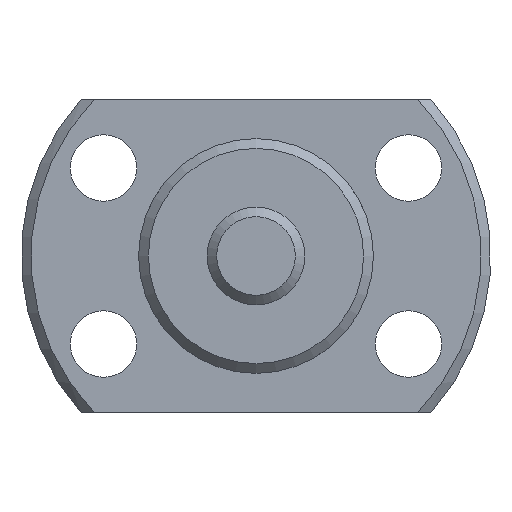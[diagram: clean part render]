
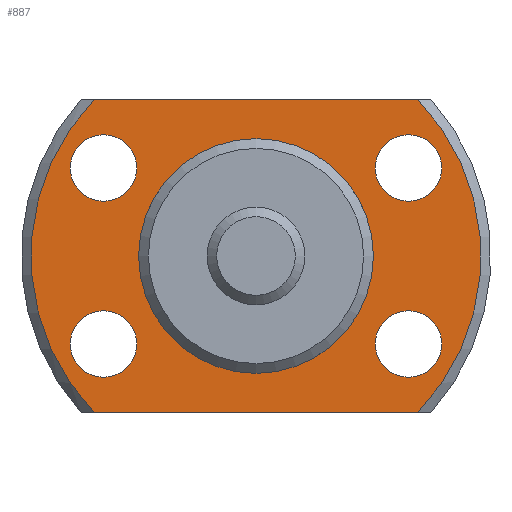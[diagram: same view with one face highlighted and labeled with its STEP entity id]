
A CAD part, left-side view. The second image highlights one B-rep face of the part: STEP entity #887.
In plain terms, the highlighted planar face has unit normal (-1, 0, 0).
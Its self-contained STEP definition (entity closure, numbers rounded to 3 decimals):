
#100=LINE('',#1552,#138);
#101=LINE('',#1556,#139);
#138=VECTOR('',#1234,1000.);
#139=VECTOR('',#1237,1000.);
#257=ORIENTED_EDGE('',*,*,#448,.T.);
#258=ORIENTED_EDGE('',*,*,#449,.T.);
#259=ORIENTED_EDGE('',*,*,#450,.T.);
#260=ORIENTED_EDGE('',*,*,#451,.T.);
#261=ORIENTED_EDGE('',*,*,#437,.F.);
#262=ORIENTED_EDGE('',*,*,#452,.F.);
#263=ORIENTED_EDGE('',*,*,#453,.F.);
#264=ORIENTED_EDGE('',*,*,#454,.F.);
#265=ORIENTED_EDGE('',*,*,#431,.T.);
#431=EDGE_CURVE('',#535,#535,#603,.T.);
#437=EDGE_CURVE('',#540,#541,#606,.T.);
#448=EDGE_CURVE('',#550,#550,#612,.T.);
#449=EDGE_CURVE('',#551,#551,#613,.T.);
#450=EDGE_CURVE('',#552,#552,#614,.T.);
#451=EDGE_CURVE('',#553,#553,#615,.T.);
#452=EDGE_CURVE('',#554,#540,#100,.T.);
#453=EDGE_CURVE('',#555,#554,#616,.T.);
#454=EDGE_CURVE('',#541,#555,#101,.T.);
#535=VERTEX_POINT('',#1495);
#540=VERTEX_POINT('',#1509);
#541=VERTEX_POINT('',#1511);
#550=VERTEX_POINT('',#1545);
#551=VERTEX_POINT('',#1547);
#552=VERTEX_POINT('',#1549);
#553=VERTEX_POINT('',#1551);
#554=VERTEX_POINT('',#1553);
#555=VERTEX_POINT('',#1555);
#603=CIRCLE('',#998,5.75);
#606=CIRCLE('',#1002,11.5);
#612=CIRCLE('',#1013,1.7);
#613=CIRCLE('',#1014,1.7);
#614=CIRCLE('',#1015,1.7);
#615=CIRCLE('',#1016,1.7);
#616=CIRCLE('',#1017,11.5);
#679=EDGE_LOOP('',(#257));
#680=EDGE_LOOP('',(#258));
#681=EDGE_LOOP('',(#259));
#682=EDGE_LOOP('',(#260));
#683=EDGE_LOOP('',(#261,#262,#263,#264));
#684=EDGE_LOOP('',(#265));
#777=FACE_BOUND('',#679,.T.);
#778=FACE_BOUND('',#680,.T.);
#779=FACE_BOUND('',#681,.T.);
#780=FACE_BOUND('',#682,.T.);
#781=FACE_BOUND('',#683,.T.);
#782=FACE_BOUND('',#684,.T.);
#840=PLANE('',#1012);
#887=ADVANCED_FACE('',(#777,#778,#779,#780,#781,#782),#840,.F.);
#998=AXIS2_PLACEMENT_3D('',#1494,#1192,#1193);
#1002=AXIS2_PLACEMENT_3D('',#1510,#1202,#1203);
#1012=AXIS2_PLACEMENT_3D('',#1543,#1224,#1225);
#1013=AXIS2_PLACEMENT_3D('',#1544,#1226,#1227);
#1014=AXIS2_PLACEMENT_3D('',#1546,#1228,#1229);
#1015=AXIS2_PLACEMENT_3D('',#1548,#1230,#1231);
#1016=AXIS2_PLACEMENT_3D('',#1550,#1232,#1233);
#1017=AXIS2_PLACEMENT_3D('',#1554,#1235,#1236);
#1192=DIRECTION('',(1.,0.,0.));
#1193=DIRECTION('',(0.,0.,-1.));
#1202=DIRECTION('',(1.,0.,0.));
#1203=DIRECTION('',(0.,0.,-1.));
#1224=DIRECTION('',(1.,0.,0.));
#1225=DIRECTION('',(0.,0.,-1.));
#1226=DIRECTION('',(1.,0.,0.));
#1227=DIRECTION('',(0.,0.,-1.));
#1228=DIRECTION('',(1.,0.,0.));
#1229=DIRECTION('',(0.,0.,-1.));
#1230=DIRECTION('',(1.,0.,0.));
#1231=DIRECTION('',(0.,0.,-1.));
#1232=DIRECTION('',(1.,0.,0.));
#1233=DIRECTION('',(0.,0.,-1.));
#1234=DIRECTION('',(0.,1.,0.));
#1235=DIRECTION('',(1.,0.,0.));
#1236=DIRECTION('',(0.,0.,-1.));
#1237=DIRECTION('',(0.,-1.,0.));
#1494=CARTESIAN_POINT('',(18.,0.,0.));
#1495=CARTESIAN_POINT('',(18.,0.,-5.75));
#1509=CARTESIAN_POINT('',(18.,8.261,-8.));
#1510=CARTESIAN_POINT('',(18.,0.,0.));
#1511=CARTESIAN_POINT('',(18.,8.261,8.));
#1543=CARTESIAN_POINT('',(18.,5.75,0.));
#1544=CARTESIAN_POINT('',(18.,-7.794,-4.5));
#1545=CARTESIAN_POINT('',(18.,-7.794,-6.2));
#1546=CARTESIAN_POINT('',(18.,-7.794,4.5));
#1547=CARTESIAN_POINT('',(18.,-7.794,2.8));
#1548=CARTESIAN_POINT('',(18.,7.794,-4.5));
#1549=CARTESIAN_POINT('',(18.,7.794,-6.2));
#1550=CARTESIAN_POINT('',(18.,7.794,4.5));
#1551=CARTESIAN_POINT('',(18.,7.794,2.8));
#1552=CARTESIAN_POINT('',(18.,-17.,-8.));
#1553=CARTESIAN_POINT('',(18.,-8.261,-8.));
#1554=CARTESIAN_POINT('',(18.,0.,0.));
#1555=CARTESIAN_POINT('',(18.,-8.261,8.));
#1556=CARTESIAN_POINT('',(18.,17.,8.));
